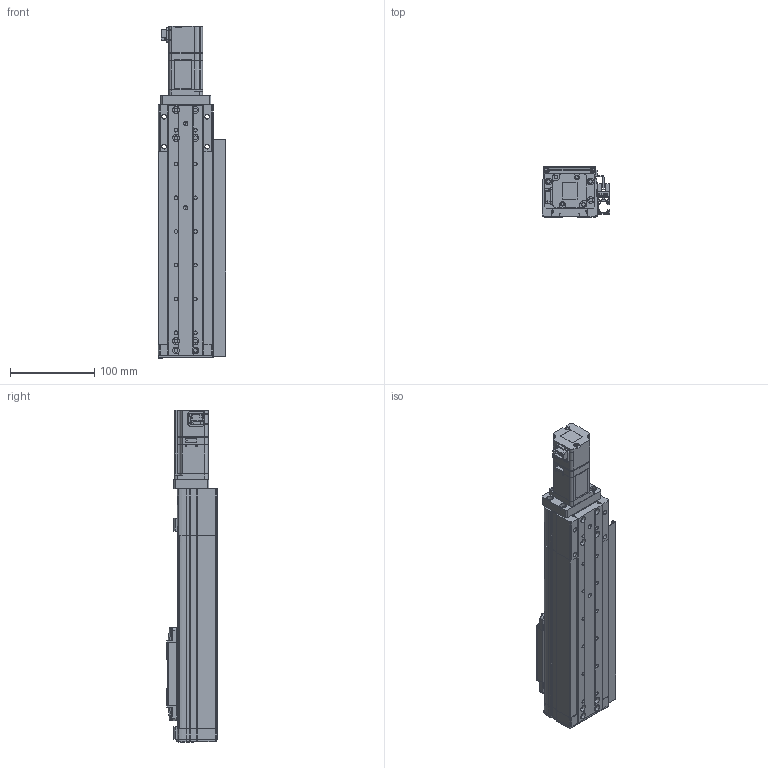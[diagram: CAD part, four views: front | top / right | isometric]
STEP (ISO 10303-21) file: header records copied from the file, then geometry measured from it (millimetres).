
FILE_DESCRIPTION (( 'STEP AP203' ), '1' );
FILE_NAME ('PES065SON-1205-ST100-10NN00-N-I3R.STEP', '2015-10-06T23:21:15', ( '' ), ( '' ), 'SwSTEP 2.0', 'SolidWorks 2012', '' );
FILE_SCHEMA (( 'CONFIG_CONTROL_DESIGN' ));
Products named in the file (14): PES065SON-1205-ST100-10NN00-N-I3R; EE_SX674; PES065-Sensor Dog; SGMJV 100W; SDWA-22C; PES065-END COVER; PES065-Carrier UPPER COVER; PES065-Carrier END COVER; PES065S-Motor Bracket; PES065-100ST Base; PES065S-Carrier; PES065S-Free Bearing; PES065-Sus Band Holder; PES065S-Fix Bearing
Assembly tree (17 placements, depth 2):
  PES065SON-1205-ST100-10NN00-N-I3R
    PES065S-Fix Bearing
    PES065-100ST Base
    PES065S-Free Bearing
    PES065-Sus Band Holder  x2
    PES065S-Carrier
    PES065-Carrier END COVER  x2
    PES065-Carrier UPPER COVER
    PES065S-Motor Bracket
    PES065-Sensor Dog
    PES065-END COVER
    SDWA-22C
    SGMJV 100W
    EE_SX674  x3
Bounding box: 80.4 x 60 x 393.62 mm (x, y, z)
Volume: 654845.9 mm3; surface area: 290097.3 mm2
Topology: 19 solids, 27 shells, 2527 faces, 6719 edges, 4299 vertices
Faces by surface type: plane 1125, cylinder 874, cone 264, bspline 263, torus 1
Entity records: 82223 total; most frequent: CARTESIAN_POINT 23531, ORIENTED_EDGE 12210, DIRECTION 11829, EDGE_CURVE 6105, AXIS2_PLACEMENT_3D 4291, VERTEX_POINT 3940, VECTOR 3247, LINE 3247
